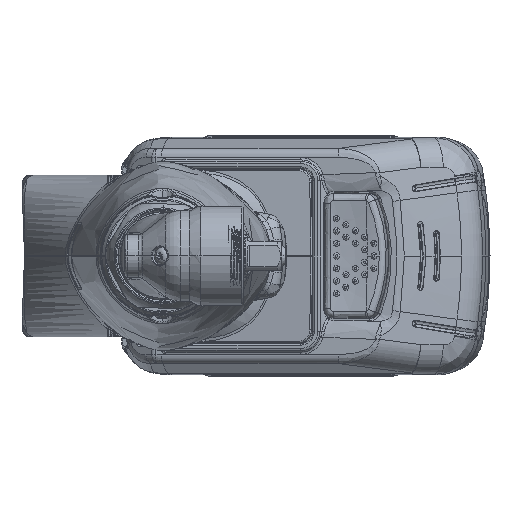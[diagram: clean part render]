
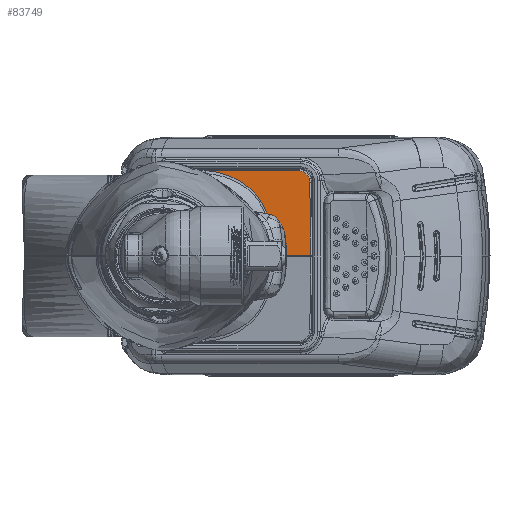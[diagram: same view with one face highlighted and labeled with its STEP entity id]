
A CAD part, left-side view. The second image highlights one B-rep face of the part: STEP entity #83749.
In plain terms, the highlighted planar face has unit normal (-0.99, 0.139, 0.035).
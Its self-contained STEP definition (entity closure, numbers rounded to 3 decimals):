
#5990 = CARTESIAN_POINT ( 'NONE',  ( 312.066, -32.391, 16.198 ) ) ;
#16600 = CARTESIAN_POINT ( 'NONE',  ( 310.934, -43.23, 27.318 ) ) ;
#16675 = LINE ( 'NONE', #111030, #40654 ) ;
#17956 = CARTESIAN_POINT ( 'NONE',  ( 314.147, -20.082, 26.171 ) ) ;
#18575 = VERTEX_POINT ( 'NONE', #135825 ) ;
#33595 = FACE_OUTER_BOUND ( 'NONE', #167705, .T. ) ;
#35723 = PLANE ( 'NONE',  #151623 ) ;
#37306 = CARTESIAN_POINT ( 'NONE',  ( 312.605, -29.543, 20.135 ) ) ;
#37854 = DIRECTION ( 'NONE',  ( -0.99, 0.139, 0.035 ) ) ;
#38403 = CARTESIAN_POINT ( 'NONE',  ( 311.781, -33.66, 13.178 ) ) ;
#39214 = CARTESIAN_POINT ( 'NONE',  ( 309.387, -47.458, 0.3 ) ) ;
#40500 = CARTESIAN_POINT ( 'NONE',  ( 311.598, -34.373, 10.845 ) ) ;
#40654 = VECTOR ( 'NONE', #60263, 1000. ) ;
#40995 = DIRECTION ( 'NONE',  ( 0.139, 0.99, 0. ) ) ;
#41609 = CARTESIAN_POINT ( 'NONE',  ( 311.884, -33.216, 14.326 ) ) ;
#45935 = CARTESIAN_POINT ( 'NONE',  ( 310.934, -43.23, 27.318 ) ) ;
#46643 = EDGE_CURVE ( 'NONE', #200661, #185105, #75769, .T. ) ;
#51404 = CARTESIAN_POINT ( 'NONE',  ( 313.232, -25.874, 23.312 ) ) ;
#53533 = CARTESIAN_POINT ( 'NONE',  ( 313.123, -26.535, 22.847 ) ) ;
#54123 = EDGE_CURVE ( 'NONE', #70614, #18575, #61481, .T. ) ;
#55693 = CARTESIAN_POINT ( 'NONE',  ( 312.23, -31.574, 17.595 ) ) ;
#59914 =( BOUNDED_CURVE ( )  B_SPLINE_CURVE ( 3, ( #125890, #95595, #79407, #45935 ),
 .UNSPECIFIED., .F., .T. ) 
 B_SPLINE_CURVE_WITH_KNOTS ( ( 4, 4 ),
 ( 1.588, 3.142 ),
 .UNSPECIFIED. ) 
 CURVE ( )  GEOMETRIC_REPRESENTATION_ITEM ( )  RATIONAL_B_SPLINE_CURVE ( ( 1., 0.809, 0.809, 1. ) ) 
 REPRESENTATION_ITEM ( '' )  );
#60263 = DIRECTION ( 'NONE',  ( -0.139, -0.99, 0. ) ) ;
#61147 = B_SPLINE_CURVE_WITH_KNOTS ( 'NONE', 3,
 ( #134548, #130282, #132413, #198289, #116215, #100026, #165876, #17956, #83802, #149697, #67588, #51404, #53533, #135610, #156084, #171179, #37306, #90204, #103230, #55693, #5990, #41609, #155017, #38403, #85927, #107492, #40500, #71860, #137746, #188465, #122602, #106412, #169065, #121567, #202535, #86995 ),
 .UNSPECIFIED., .F., .F.,
 ( 4, 2, 2, 2, 2, 2, 2, 2, 2, 2, 2, 2, 2, 2, 2, 2, 2, 4 ),
 ( 0.034, 0.036, 0.037, 0.039, 0.044, 0.047, 0.049, 0.051, 0.053, 0.054, 0.059, 0.06, 0.061, 0.064, 0.069, 0.071, 0.072, 0.073 ),
 .UNSPECIFIED. ) ;
#61481 = LINE ( 'NONE', #127355, #150889 ) ;
#67588 = CARTESIAN_POINT ( 'NONE',  ( 313.456, -24.5, 24.171 ) ) ;
#69203 = DIRECTION ( 'NONE',  ( 0.035, -0.005, 0.999 ) ) ;
#70614 = VERTEX_POINT ( 'NONE', #16600 ) ;
#71497 = DIRECTION ( 'NONE',  ( 0.037, 0.012, 0.999 ) ) ;
#71860 = CARTESIAN_POINT ( 'NONE',  ( 311.441, -34.896, 8.468 ) ) ;
#75540 = ORIENTED_EDGE ( 'NONE', *, *, #185177, .T. ) ;
#75769 = LINE ( 'NONE', #207520, #171884 ) ;
#79407 = CARTESIAN_POINT ( 'NONE',  ( 310.613, -45.518, 27.318 ) ) ;
#83749 = ADVANCED_FACE ( 'NONE', ( #33595 ), #35723, .T. ) ;
#83802 = CARTESIAN_POINT ( 'NONE',  ( 313.916, -21.592, 25.627 ) ) ;
#85927 = CARTESIAN_POINT ( 'NONE',  ( 311.748, -33.793, 12.793 ) ) ;
#86995 = CARTESIAN_POINT ( 'NONE',  ( 311.104, -35.243, 0.3 ) ) ;
#90204 = CARTESIAN_POINT ( 'NONE',  ( 312.507, -30.081, 19.519 ) ) ;
#95595 = CARTESIAN_POINT ( 'NONE',  ( 310.327, -47.143, 25.698 ) ) ;
#100026 = CARTESIAN_POINT ( 'NONE',  ( 314.613, -16.958, 26.931 ) ) ;
#103230 = CARTESIAN_POINT ( 'NONE',  ( 312.46, -30.339, 19.204 ) ) ;
#106412 = CARTESIAN_POINT ( 'NONE',  ( 311.167, -35.306, 2.348 ) ) ;
#107492 = CARTESIAN_POINT ( 'NONE',  ( 311.655, -34.165, 11.63 ) ) ;
#111030 = CARTESIAN_POINT ( 'NONE',  ( 308.691, -52.415, 0.3 ) ) ;
#115377 = ORIENTED_EDGE ( 'NONE', *, *, #197852, .T. ) ;
#116215 = CARTESIAN_POINT ( 'NONE',  ( 314.789, -15.756, 27.119 ) ) ;
#121567 = CARTESIAN_POINT ( 'NONE',  ( 311.126, -35.29, 1.119 ) ) ;
#122602 = CARTESIAN_POINT ( 'NONE',  ( 311.211, -35.301, 3.577 ) ) ;
#125890 = CARTESIAN_POINT ( 'NONE',  ( 310.242, -47.171, 23.387 ) ) ;
#127355 = CARTESIAN_POINT ( 'NONE',  ( 318.216, 8.58, 27.318 ) ) ;
#129496 = ORIENTED_EDGE ( 'NONE', *, *, #46643, .T. ) ;
#130282 = CARTESIAN_POINT ( 'NONE',  ( 315.022, -14.138, 27.293 ) ) ;
#132413 = CARTESIAN_POINT ( 'NONE',  ( 314.964, -14.542, 27.259 ) ) ;
#134548 = CARTESIAN_POINT ( 'NONE',  ( 315.08, -13.735, 27.318 ) ) ;
#134638 = ORIENTED_EDGE ( 'NONE', *, *, #141970, .T. ) ;
#135610 = CARTESIAN_POINT ( 'NONE',  ( 312.91, -27.799, 21.843 ) ) ;
#135825 = CARTESIAN_POINT ( 'NONE',  ( 315.08, -13.735, 27.318 ) ) ;
#137746 = CARTESIAN_POINT ( 'NONE',  ( 311.354, -35.111, 6.852 ) ) ;
#141970 = EDGE_CURVE ( 'NONE', #18575, #182512, #61147, .T. ) ;
#145322 = ORIENTED_EDGE ( 'NONE', *, *, #54123, .T. ) ;
#149697 = CARTESIAN_POINT ( 'NONE',  ( 313.571, -23.781, 24.567 ) ) ;
#150889 = VECTOR ( 'NONE', #40995, 1000. ) ;
#151623 = AXIS2_PLACEMENT_3D ( 'NONE', #168518, #37854, #69203 ) ;
#155017 = CARTESIAN_POINT ( 'NONE',  ( 311.848, -33.371, 13.944 ) ) ;
#156084 = CARTESIAN_POINT ( 'NONE',  ( 312.806, -28.403, 21.304 ) ) ;
#161872 = CARTESIAN_POINT ( 'NONE',  ( 311.104, -35.243, 0.3 ) ) ;
#165876 = CARTESIAN_POINT ( 'NONE',  ( 314.496, -17.747, 26.769 ) ) ;
#167705 = EDGE_LOOP ( 'NONE', ( #134638, #75540, #129496, #115377, #145322 ) ) ;
#168518 = CARTESIAN_POINT ( 'NONE',  ( 309.642, -52.548, 27.8 ) ) ;
#169065 = CARTESIAN_POINT ( 'NONE',  ( 311.153, -35.307, 1.939 ) ) ;
#171179 = CARTESIAN_POINT ( 'NONE',  ( 312.655, -29.263, 20.436 ) ) ;
#171884 = VECTOR ( 'NONE', #71497, 1000. ) ;
#182512 = VERTEX_POINT ( 'NONE', #161872 ) ;
#185105 = VERTEX_POINT ( 'NONE', #185585 ) ;
#185177 = EDGE_CURVE ( 'NONE', #182512, #200661, #16675, .T. ) ;
#185585 = CARTESIAN_POINT ( 'NONE',  ( 310.242, -47.171, 23.387 ) ) ;
#188465 = CARTESIAN_POINT ( 'NONE',  ( 311.244, -35.274, 4.396 ) ) ;
#197852 = EDGE_CURVE ( 'NONE', #185105, #70614, #59914, .T. ) ;
#198289 = CARTESIAN_POINT ( 'NONE',  ( 314.847, -15.351, 27.172 ) ) ;
#200661 = VERTEX_POINT ( 'NONE', #39214 ) ;
#202535 = CARTESIAN_POINT ( 'NONE',  ( 311.115, -35.272, 0.71 ) ) ;
#207520 = CARTESIAN_POINT ( 'NONE',  ( 310.241, -47.172, 23.37 ) ) ;
